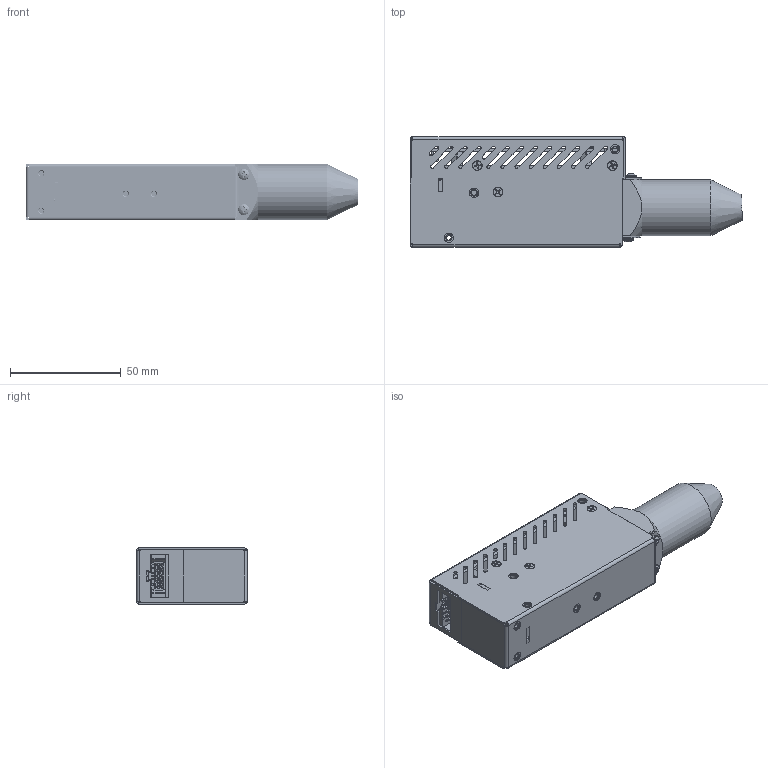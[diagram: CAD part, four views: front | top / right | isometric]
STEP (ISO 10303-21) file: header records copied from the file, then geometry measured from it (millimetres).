
FILE_DESCRIPTION (( 'STEP AP214' ), '1' );
FILE_NAME ('TUB00125-XXX.STEP', '2024-06-11T19:02:13', ( '' ), ( '' ), 'SwSTEP 2.0', 'SolidWorks 2023', '' );
FILE_SCHEMA (( 'AUTOMOTIVE_DESIGN' ));
Products named in the file (1): TUB00125-XXX
Bounding box: 149.81 x 50.02 x 25.41 mm (x, y, z)
Volume: 29394.8 mm3; surface area: 56806.7 mm2
Topology: 1 solids, 9 shells, 2249 faces, 5942 edges, 3826 vertices
Faces by surface type: plane 1307, cylinder 584, cone 196, bspline 128, torus 24, sphere 10
Full cylindrical faces by diameter (mm): 0.5 x10, 0.55 x10, 0.8 x20, 0.851 x20, 0.864 x10, 1 x10, 1.6 x1, 2.05 x18, 2.156 x9, 2.184 x6, 2.261 x20, 2.459 x2, 2.464 x20, 2.946 x4, 3 x8, 3.175 x1, 3.429 x6, 3.454 x6, 3.874 x4, 4.085 x8, 4.191 x21, 4.216 x17, 5 x2, 5.461 x2, 5.563 x4, 5.588 x15, 5.6 x2, 6.35 x2, 9.652 x1, 23.327 x1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
Entity records: 158384 total; most frequent: CARTESIAN_POINT 107689, ORIENTED_EDGE 10568, DIRECTION 9705, EDGE_CURVE 5284, VERTEX_POINT 3569, AXIS2_PLACEMENT_3D 3336, LINE 3033, VECTOR 3033
